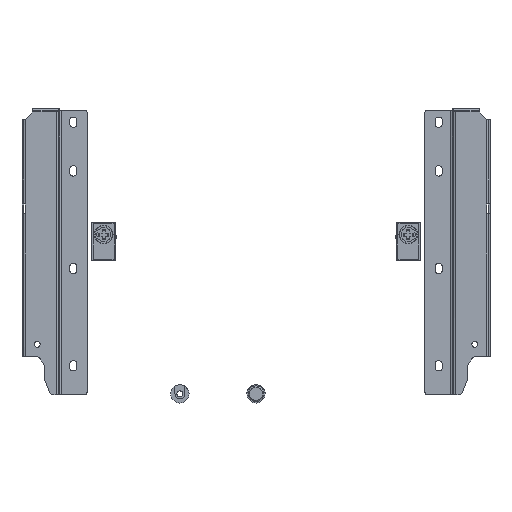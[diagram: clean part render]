
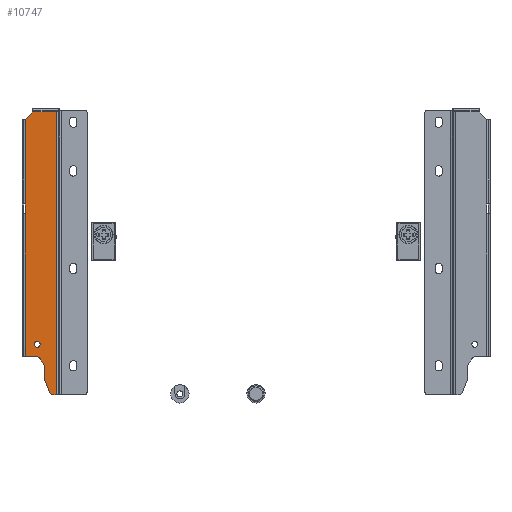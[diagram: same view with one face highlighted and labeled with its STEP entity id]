
A CAD part, top view. The second image highlights one B-rep face of the part: STEP entity #10747.
In plain terms, the highlighted planar face has unit normal (0, 0, 1) as drawn and (0, 1, 0) by its records, which use the part's own axes.
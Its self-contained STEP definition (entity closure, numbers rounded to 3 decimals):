
#55 = CARTESIAN_POINT ( 'NONE',  ( 0., 19., 187. ) ) ;
#151 = VERTEX_POINT ( 'NONE', #894 ) ;
#270 = VERTEX_POINT ( 'NONE', #7063 ) ;
#272 = VECTOR ( 'NONE', #8026, 1000. ) ;
#381 = DIRECTION ( 'NONE',  ( 0., 0., 1. ) ) ;
#466 = EDGE_CURVE ( 'NONE', #3116, #814, #4151, .T. ) ;
#600 = DIRECTION ( 'NONE',  ( -0.707, 0., 0.707 ) ) ;
#630 = ORIENTED_EDGE ( 'NONE', *, *, #2563, .F. ) ;
#787 = VERTEX_POINT ( 'NONE', #3904 ) ;
#814 = VERTEX_POINT ( 'NONE', #6208 ) ;
#894 = CARTESIAN_POINT ( 'NONE',  ( 1., 19., 0. ) ) ;
#972 = VERTEX_POINT ( 'NONE', #10239 ) ;
#977 = CARTESIAN_POINT ( 'NONE',  ( 16.7, 19., 185.7 ) ) ;
#1096 = DIRECTION ( 'NONE',  ( 0., 0., 1. ) ) ;
#1106 = EDGE_CURVE ( 'NONE', #4486, #3819, #10775, .T. ) ;
#1144 = CARTESIAN_POINT ( 'NONE',  ( 11.813, 19., 23.635 ) ) ;
#1513 = AXIS2_PLACEMENT_3D ( 'NONE', #13323, #7380, #381 ) ;
#1774 = AXIS2_PLACEMENT_3D ( 'NONE', #55, #4684, #12859 ) ;
#1775 = DIRECTION ( 'NONE',  ( 0., 1., 0. ) ) ;
#1847 = VERTEX_POINT ( 'NONE', #3311 ) ;
#2044 = DIRECTION ( 'NONE',  ( 1., 0., 0. ) ) ;
#2110 = DIRECTION ( 'NONE',  ( 0., 0., 1. ) ) ;
#2244 = EDGE_CURVE ( 'NONE', #10382, #7026, #5143, .T. ) ;
#2276 = VECTOR ( 'NONE', #14144, 1000. ) ;
#2300 = DIRECTION ( 'NONE',  ( 0., -1., 0. ) ) ;
#2500 = DIRECTION ( 'NONE',  ( 1., 0., 0. ) ) ;
#2563 = EDGE_CURVE ( 'NONE', #6134, #3488, #13963, .T. ) ;
#3075 = CARTESIAN_POINT ( 'NONE',  ( 13.7, 19., 31.1 ) ) ;
#3116 = VERTEX_POINT ( 'NONE', #977 ) ;
#3180 = EDGE_CURVE ( 'NONE', #8951, #787, #4244, .T. ) ;
#3200 = EDGE_CURVE ( 'NONE', #4486, #8432, #5617, .T. ) ;
#3210 = CARTESIAN_POINT ( 'NONE',  ( 11.8, 19., 18.111 ) ) ;
#3311 = CARTESIAN_POINT ( 'NONE',  ( 8.8, 19., 10.551 ) ) ;
#3313 = EDGE_CURVE ( 'NONE', #1847, #7026, #11721, .T. ) ;
#3397 = PLANE ( 'NONE',  #1774 ) ;
#3450 = DIRECTION ( 'NONE',  ( 0., 0., 1. ) ) ;
#3488 = VERTEX_POINT ( 'NONE', #3075 ) ;
#3614 = CARTESIAN_POINT ( 'NONE',  ( 5.8, 19., 10.551 ) ) ;
#3685 = ORIENTED_EDGE ( 'NONE', *, *, #11915, .T. ) ;
#3819 = VERTEX_POINT ( 'NONE', #1144 ) ;
#3904 = CARTESIAN_POINT ( 'NONE',  ( 21.7, 19., 125.3 ) ) ;
#3921 = EDGE_CURVE ( 'NONE', #10382, #3819, #10297, .T. ) ;
#3951 = VECTOR ( 'NONE', #11680, 1000. ) ;
#4072 = DIRECTION ( 'NONE',  ( -1., 0., 0. ) ) ;
#4088 = CARTESIAN_POINT ( 'NONE',  ( 16.7, 19., 185.7 ) ) ;
#4151 = LINE ( 'NONE', #11124, #14325 ) ;
#4189 = CARTESIAN_POINT ( 'NONE',  ( 13.7, 19., 33. ) ) ;
#4244 = LINE ( 'NONE', #14752, #13033 ) ;
#4314 = DIRECTION ( 'NONE',  ( 0., 0., 1. ) ) ;
#4369 = VERTEX_POINT ( 'NONE', #14820 ) ;
#4486 = VERTEX_POINT ( 'NONE', #9443 ) ;
#4684 = DIRECTION ( 'NONE',  ( 0., 1., 0. ) ) ;
#4686 = VECTOR ( 'NONE', #600, 1000. ) ;
#4703 = CARTESIAN_POINT ( 'NONE',  ( 8.8, 19., 19. ) ) ;
#4769 = CARTESIAN_POINT ( 'NONE',  ( 21.7, 19., 187. ) ) ;
#5126 = ORIENTED_EDGE ( 'NONE', *, *, #1106, .T. ) ;
#5143 = CIRCLE ( 'NONE', #8319, 3. ) ;
#5167 = VECTOR ( 'NONE', #13786, 1000. ) ;
#5228 = VECTOR ( 'NONE', #2044, 1000. ) ;
#5617 = LINE ( 'NONE', #13615, #5228 ) ;
#5745 = DIRECTION ( 'NONE',  ( 0., 1., 0. ) ) ;
#5810 = CARTESIAN_POINT ( 'NONE',  ( 2.931, 19., 3. ) ) ;
#6134 = VERTEX_POINT ( 'NONE', #7052 ) ;
#6137 = CARTESIAN_POINT ( 'NONE',  ( 8.8, 19., 10. ) ) ;
#6208 = CARTESIAN_POINT ( 'NONE',  ( 1., 19., 185.7 ) ) ;
#6809 = DIRECTION ( 'NONE',  ( 0., -1., 0. ) ) ;
#6835 = EDGE_CURVE ( 'NONE', #972, #270, #14626, .T. ) ;
#6967 = CARTESIAN_POINT ( 'NONE',  ( 1., 19., 187. ) ) ;
#7026 = VERTEX_POINT ( 'NONE', #10531 ) ;
#7052 = CARTESIAN_POINT ( 'NONE',  ( 13.7, 19., 34.9 ) ) ;
#7063 = CARTESIAN_POINT ( 'NONE',  ( 8.604, 19., 9.485 ) ) ;
#7231 = LINE ( 'NONE', #12955, #14666 ) ;
#7288 = CARTESIAN_POINT ( 'NONE',  ( 21.7, 19., 119.5 ) ) ;
#7380 = DIRECTION ( 'NONE',  ( 0., 1., 0. ) ) ;
#7461 = LINE ( 'NONE', #4088, #4686 ) ;
#7704 = CARTESIAN_POINT ( 'NONE',  ( 5., 19., 0. ) ) ;
#7778 = DIRECTION ( 'NONE',  ( 0.355, 0., 0.935 ) ) ;
#7799 = AXIS2_PLACEMENT_3D ( 'NONE', #5810, #5745, #3450 ) ;
#7966 = ORIENTED_EDGE ( 'NONE', *, *, #10443, .F. ) ;
#8026 = DIRECTION ( 'NONE',  ( 0., 0., 1. ) ) ;
#8306 = ORIENTED_EDGE ( 'NONE', *, *, #3200, .F. ) ;
#8319 = AXIS2_PLACEMENT_3D ( 'NONE', #3210, #6809, #1096 ) ;
#8432 = VERTEX_POINT ( 'NONE', #12747 ) ;
#8466 = ORIENTED_EDGE ( 'NONE', *, *, #11567, .F. ) ;
#8556 = DIRECTION ( 'NONE',  ( 0., 0., 1. ) ) ;
#8834 = ORIENTED_EDGE ( 'NONE', *, *, #2244, .T. ) ;
#8853 = CIRCLE ( 'NONE', #10073, 3. ) ;
#8951 = VERTEX_POINT ( 'NONE', #7288 ) ;
#9105 = ORIENTED_EDGE ( 'NONE', *, *, #13659, .T. ) ;
#9118 = AXIS2_PLACEMENT_3D ( 'NONE', #4189, #1775, #8556 ) ;
#9206 = EDGE_CURVE ( 'NONE', #972, #4369, #14363, .T. ) ;
#9231 = EDGE_CURVE ( 'NONE', #151, #814, #11481, .T. ) ;
#9322 = CARTESIAN_POINT ( 'NONE',  ( 14.328, 19., 22. ) ) ;
#9430 = DIRECTION ( 'NONE',  ( 0., 0., 1. ) ) ;
#9443 = CARTESIAN_POINT ( 'NONE',  ( 14.328, 19., 25. ) ) ;
#9515 = AXIS2_PLACEMENT_3D ( 'NONE', #9322, #2300, #11621 ) ;
#9519 = LINE ( 'NONE', #4769, #2276 ) ;
#9684 = ORIENTED_EDGE ( 'NONE', *, *, #3313, .F. ) ;
#10073 = AXIS2_PLACEMENT_3D ( 'NONE', #3614, #12557, #2110 ) ;
#10239 = CARTESIAN_POINT ( 'NONE',  ( 5.735, 19., 1.934 ) ) ;
#10297 = LINE ( 'NONE', #4703, #5167 ) ;
#10382 = VERTEX_POINT ( 'NONE', #14452 ) ;
#10443 = EDGE_CURVE ( 'NONE', #3488, #6134, #11258, .T. ) ;
#10504 = FACE_BOUND ( 'NONE', #14425, .T. ) ;
#10531 = CARTESIAN_POINT ( 'NONE',  ( 8.8, 19., 18.111 ) ) ;
#10587 = ORIENTED_EDGE ( 'NONE', *, *, #9231, .T. ) ;
#10747 = ADVANCED_FACE ( 'NONE', ( #13835, #10504 ), #3397, .T. ) ;
#10775 = CIRCLE ( 'NONE', #9515, 3. ) ;
#11124 = CARTESIAN_POINT ( 'NONE',  ( 23.7, 19., 185.7 ) ) ;
#11258 = CIRCLE ( 'NONE', #1513, 1.9 ) ;
#11481 = LINE ( 'NONE', #6967, #272 ) ;
#11567 = EDGE_CURVE ( 'NONE', #151, #4369, #7231, .T. ) ;
#11599 = EDGE_CURVE ( 'NONE', #14411, #3116, #7461, .T. ) ;
#11621 = DIRECTION ( 'NONE',  ( 0., 0., 1. ) ) ;
#11680 = DIRECTION ( 'NONE',  ( 0., 0., -1. ) ) ;
#11681 = ORIENTED_EDGE ( 'NONE', *, *, #3180, .F. ) ;
#11721 = LINE ( 'NONE', #6137, #12784 ) ;
#11758 = LINE ( 'NONE', #12966, #3951 ) ;
#11915 = EDGE_CURVE ( 'NONE', #14411, #787, #9519, .T. ) ;
#12128 = ORIENTED_EDGE ( 'NONE', *, *, #3921, .F. ) ;
#12531 = ORIENTED_EDGE ( 'NONE', *, *, #12783, .T. ) ;
#12557 = DIRECTION ( 'NONE',  ( 0., 1., 0. ) ) ;
#12747 = CARTESIAN_POINT ( 'NONE',  ( 21.7, 19., 25. ) ) ;
#12783 = EDGE_CURVE ( 'NONE', #8951, #8432, #11758, .T. ) ;
#12784 = VECTOR ( 'NONE', #9430, 1000. ) ;
#12859 = DIRECTION ( 'NONE',  ( 0., 0., 1. ) ) ;
#12955 = CARTESIAN_POINT ( 'NONE',  ( 0., 19., 0. ) ) ;
#12966 = CARTESIAN_POINT ( 'NONE',  ( 21.7, 19., 187. ) ) ;
#13033 = VECTOR ( 'NONE', #4314, 1000. ) ;
#13323 = CARTESIAN_POINT ( 'NONE',  ( 13.7, 19., 33. ) ) ;
#13607 = VECTOR ( 'NONE', #7778, 1000. ) ;
#13615 = CARTESIAN_POINT ( 'NONE',  ( 12.7, 19., 25. ) ) ;
#13659 = EDGE_CURVE ( 'NONE', #1847, #270, #8853, .T. ) ;
#13760 = ORIENTED_EDGE ( 'NONE', *, *, #466, .F. ) ;
#13786 = DIRECTION ( 'NONE',  ( 0.545, 0., 0.838 ) ) ;
#13835 = FACE_OUTER_BOUND ( 'NONE', #14960, .T. ) ;
#13921 = CARTESIAN_POINT ( 'NONE',  ( 21.7, 19., 180.7 ) ) ;
#13963 = CIRCLE ( 'NONE', #9118, 1.9 ) ;
#14144 = DIRECTION ( 'NONE',  ( 0., 0., -1. ) ) ;
#14325 = VECTOR ( 'NONE', #4072, 1000. ) ;
#14363 = CIRCLE ( 'NONE', #7799, 3. ) ;
#14411 = VERTEX_POINT ( 'NONE', #13921 ) ;
#14425 = EDGE_LOOP ( 'NONE', ( #630, #7966 ) ) ;
#14452 = CARTESIAN_POINT ( 'NONE',  ( 9.285, 19., 19.746 ) ) ;
#14460 = ORIENTED_EDGE ( 'NONE', *, *, #6835, .F. ) ;
#14626 = LINE ( 'NONE', #7704, #13607 ) ;
#14666 = VECTOR ( 'NONE', #2500, 1000. ) ;
#14734 = ORIENTED_EDGE ( 'NONE', *, *, #11599, .F. ) ;
#14752 = CARTESIAN_POINT ( 'NONE',  ( 21.7, 19., 125.8 ) ) ;
#14820 = CARTESIAN_POINT ( 'NONE',  ( 2.931, 19., 0. ) ) ;
#14943 = ORIENTED_EDGE ( 'NONE', *, *, #9206, .T. ) ;
#14960 = EDGE_LOOP ( 'NONE', ( #14734, #3685, #11681, #12531, #8306, #5126, #12128, #8834, #9684, #9105, #14460, #14943, #8466, #10587, #13760 ) ) ;
